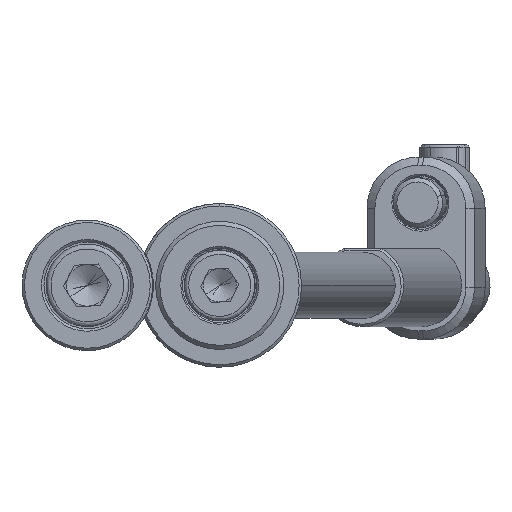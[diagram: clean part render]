
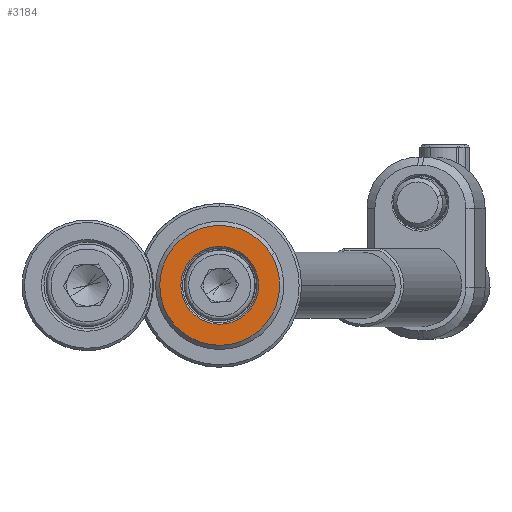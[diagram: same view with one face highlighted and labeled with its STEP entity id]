
A CAD part, front view. The second image highlights one B-rep face of the part: STEP entity #3184.
In plain terms, the highlighted planar face has unit normal (0, -1, 0).
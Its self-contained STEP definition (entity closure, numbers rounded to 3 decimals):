
#96 = CARTESIAN_POINT ( 'NONE',  ( 0., -4., 0. ) ) ;
#243 = DIRECTION ( 'NONE',  ( -0.865, 0., -0.503 ) ) ;
#536 = PLANE ( 'NONE',  #5936 ) ;
#873 = ORIENTED_EDGE ( 'NONE', *, *, #5876, .T. ) ;
#1140 = CARTESIAN_POINT ( 'NONE',  ( 0., -4., 0. ) ) ;
#1507 = AXIS2_PLACEMENT_3D ( 'NONE', #7899, #11187, #243 ) ;
#1622 = VERTEX_POINT ( 'NONE', #12202 ) ;
#1704 = AXIS2_PLACEMENT_3D ( 'NONE', #96, #5616, #12062 ) ;
#2426 = AXIS2_PLACEMENT_3D ( 'NONE', #6128, #10512, #4029 ) ;
#3184 = ADVANCED_FACE ( 'NONE', ( #13830, #12501 ), #536, .F. ) ;
#3394 = ORIENTED_EDGE ( 'NONE', *, *, #5395, .T. ) ;
#4029 = DIRECTION ( 'NONE',  ( -0.865, 0., -0.503 ) ) ;
#4037 = CARTESIAN_POINT ( 'NONE',  ( -6.268, -4., -3.643 ) ) ;
#4093 = CIRCLE ( 'NONE', #9403, 7.25 ) ;
#4533 = CIRCLE ( 'NONE', #2426, 4.7 ) ;
#4972 = CARTESIAN_POINT ( 'NONE',  ( 2.261, -4., -3.891 ) ) ;
#5094 = EDGE_LOOP ( 'NONE', ( #3394, #873 ) ) ;
#5395 = EDGE_CURVE ( 'NONE', #1622, #13748, #13045, .T. ) ;
#5616 = DIRECTION ( 'NONE',  ( 0., -1., 0. ) ) ;
#5876 = EDGE_CURVE ( 'NONE', #13748, #1622, #4533, .T. ) ;
#5936 = AXIS2_PLACEMENT_3D ( 'NONE', #4972, #11585, #9358 ) ;
#6128 = CARTESIAN_POINT ( 'NONE',  ( 0., -4., 0. ) ) ;
#6780 = DIRECTION ( 'NONE',  ( 0., -1., 0. ) ) ;
#6911 = CARTESIAN_POINT ( 'NONE',  ( 6.268, -4., 3.643 ) ) ;
#7134 = EDGE_CURVE ( 'NONE', #13753, #8074, #4093, .T. ) ;
#7899 = CARTESIAN_POINT ( 'NONE',  ( 0., -4., 0. ) ) ;
#8074 = VERTEX_POINT ( 'NONE', #4037 ) ;
#8198 = CARTESIAN_POINT ( 'NONE',  ( -4.063, -4., -2.362 ) ) ;
#8614 = EDGE_CURVE ( 'NONE', #8074, #13753, #12296, .T. ) ;
#9358 = DIRECTION ( 'NONE',  ( -0.865, 0., -0.503 ) ) ;
#9403 = AXIS2_PLACEMENT_3D ( 'NONE', #1140, #6780, #10096 ) ;
#10067 = ORIENTED_EDGE ( 'NONE', *, *, #8614, .T. ) ;
#10096 = DIRECTION ( 'NONE',  ( -0.865, 0., -0.503 ) ) ;
#10512 = DIRECTION ( 'NONE',  ( 0., 1., 0. ) ) ;
#11187 = DIRECTION ( 'NONE',  ( 0., 1., 0. ) ) ;
#11585 = DIRECTION ( 'NONE',  ( 0., 1., 0. ) ) ;
#12062 = DIRECTION ( 'NONE',  ( -0.865, 0., -0.503 ) ) ;
#12202 = CARTESIAN_POINT ( 'NONE',  ( 4.063, -4., 2.362 ) ) ;
#12296 = CIRCLE ( 'NONE', #1704, 7.25 ) ;
#12501 = FACE_OUTER_BOUND ( 'NONE', #13013, .T. ) ;
#13013 = EDGE_LOOP ( 'NONE', ( #10067, #13786 ) ) ;
#13045 = CIRCLE ( 'NONE', #1507, 4.7 ) ;
#13748 = VERTEX_POINT ( 'NONE', #8198 ) ;
#13753 = VERTEX_POINT ( 'NONE', #6911 ) ;
#13786 = ORIENTED_EDGE ( 'NONE', *, *, #7134, .T. ) ;
#13830 = FACE_BOUND ( 'NONE', #5094, .T. ) ;
